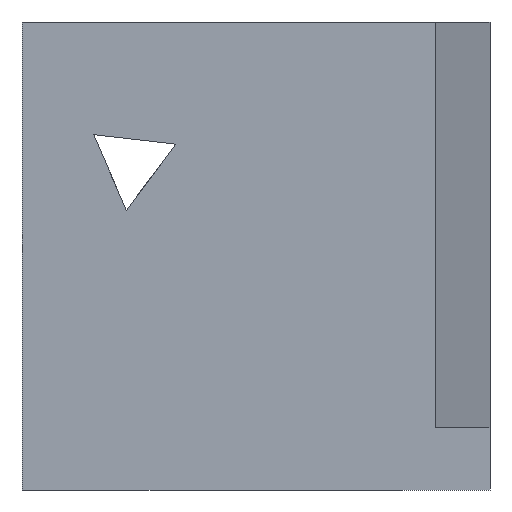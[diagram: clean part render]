
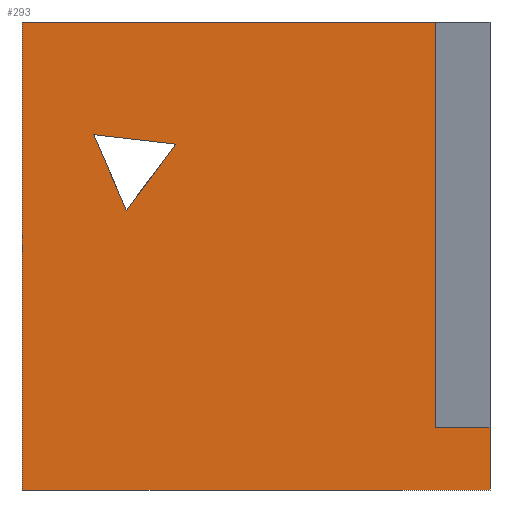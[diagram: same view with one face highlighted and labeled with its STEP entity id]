
A CAD part, left-side view. The second image highlights one B-rep face of the part: STEP entity #293.
In plain terms, the highlighted planar face has unit normal (-1, 0, 0).
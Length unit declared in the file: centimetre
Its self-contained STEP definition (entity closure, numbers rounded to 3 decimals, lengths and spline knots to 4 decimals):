
#23 = ORIENTED_EDGE ( 'NONE', *, *, #812, .F. ) ;
#25 = LINE ( 'NONE', #825, #1065 ) ;
#47 = DIRECTION ( 'NONE',  ( 0., -0.397, -0.918 ) ) ;
#94 = DIRECTION ( 'NONE',  ( 1., 0., 0. ) ) ;
#104 = CARTESIAN_POINT ( 'NONE',  ( 0., 115.4459, 1000. ) ) ;
#106 = PLANE ( 'NONE',  #1262 ) ;
#110 = LINE ( 'NONE', #381, #1040 ) ;
#130 = DIRECTION ( 'NONE',  ( 0., -1., 0. ) ) ;
#133 = EDGE_CURVE ( 'NONE', #341, #727, #710, .T. ) ;
#148 = CARTESIAN_POINT ( 'NONE',  ( 0., 0., 132.502 ) ) ;
#154 = VERTEX_POINT ( 'NONE', #327 ) ;
#175 = EDGE_CURVE ( 'NONE', #475, #1126, #608, .T. ) ;
#189 = CARTESIAN_POINT ( 'NONE',  ( 0., 776.8995, 597.3824 ) ) ;
#194 = CARTESIAN_POINT ( 'NONE',  ( 0., 1000., 1000. ) ) ;
#220 = VECTOR ( 'NONE', #1160, 100. ) ;
#242 = VECTOR ( 'NONE', #519, 100. ) ;
#253 = ORIENTED_EDGE ( 'NONE', *, *, #175, .F. ) ;
#265 = VECTOR ( 'NONE', #47, 100. ) ;
#293 = ADVANCED_FACE ( 'NONE', ( #1002, #1215 ), #106, .F. ) ;
#297 = VECTOR ( 'NONE', #565, 100. ) ;
#303 = CARTESIAN_POINT ( 'NONE',  ( 0., 1000., 1000. ) ) ;
#320 = DIRECTION ( 'NONE',  ( 0., 0., -1. ) ) ;
#327 = CARTESIAN_POINT ( 'NONE',  ( 0., 0., 0. ) ) ;
#341 = VERTEX_POINT ( 'NONE', #455 ) ;
#358 = EDGE_LOOP ( 'NONE', ( #782, #709, #253, #1229, #784, #648 ) ) ;
#359 = CARTESIAN_POINT ( 'NONE',  ( 0., 846.9196, 759.39 ) ) ;
#381 = CARTESIAN_POINT ( 'NONE',  ( 0., 776.8995, 597.3824 ) ) ;
#395 = CARTESIAN_POINT ( 'NONE',  ( 0., 671.6069, 739.0254 ) ) ;
#410 = CARTESIAN_POINT ( 'NONE',  ( 0., 671.6069, 739.0254 ) ) ;
#415 = CARTESIAN_POINT ( 'NONE',  ( 0., 1000., 0. ) ) ;
#455 = CARTESIAN_POINT ( 'NONE',  ( 0., 115.4459, 132.502 ) ) ;
#459 = CARTESIAN_POINT ( 'NONE',  ( 0., 0., 1000. ) ) ;
#469 = ORIENTED_EDGE ( 'NONE', *, *, #848, .F. ) ;
#475 = VERTEX_POINT ( 'NONE', #194 ) ;
#480 = VERTEX_POINT ( 'NONE', #189 ) ;
#481 = VERTEX_POINT ( 'NONE', #395 ) ;
#512 = LINE ( 'NONE', #1230, #685 ) ;
#519 = DIRECTION ( 'NONE',  ( 0., 0.993, 0.115 ) ) ;
#537 = CARTESIAN_POINT ( 'NONE',  ( 0., 846.9196, 759.39 ) ) ;
#565 = DIRECTION ( 'NONE',  ( 0., -1., 0. ) ) ;
#574 = EDGE_CURVE ( 'NONE', #711, #154, #1299, .T. ) ;
#582 = VECTOR ( 'NONE', #1009, 100. ) ;
#608 = LINE ( 'NONE', #303, #582 ) ;
#648 = ORIENTED_EDGE ( 'NONE', *, *, #889, .F. ) ;
#656 = EDGE_CURVE ( 'NONE', #480, #481, #110, .T. ) ;
#685 = VECTOR ( 'NONE', #320, 100. ) ;
#706 = DIRECTION ( 'NONE',  ( 0., -0.597, 0.803 ) ) ;
#709 = ORIENTED_EDGE ( 'NONE', *, *, #1293, .T. ) ;
#710 = LINE ( 'NONE', #715, #1256 ) ;
#711 = VERTEX_POINT ( 'NONE', #415 ) ;
#715 = CARTESIAN_POINT ( 'NONE',  ( 0., 0., 132.502 ) ) ;
#726 = LINE ( 'NONE', #410, #242 ) ;
#727 = VERTEX_POINT ( 'NONE', #148 ) ;
#768 = CARTESIAN_POINT ( 'NONE',  ( 0., 1000., 0. ) ) ;
#774 = EDGE_CURVE ( 'NONE', #475, #711, #512, .T. ) ;
#782 = ORIENTED_EDGE ( 'NONE', *, *, #133, .F. ) ;
#784 = ORIENTED_EDGE ( 'NONE', *, *, #574, .T. ) ;
#794 = CARTESIAN_POINT ( 'NONE',  ( 0., 1000., 1000. ) ) ;
#812 = EDGE_CURVE ( 'NONE', #481, #937, #726, .T. ) ;
#825 = CARTESIAN_POINT ( 'NONE',  ( 0., 115.4459, 132.502 ) ) ;
#848 = EDGE_CURVE ( 'NONE', #937, #480, #1222, .T. ) ;
#889 = EDGE_CURVE ( 'NONE', #727, #154, #946, .T. ) ;
#937 = VERTEX_POINT ( 'NONE', #359 ) ;
#939 = ORIENTED_EDGE ( 'NONE', *, *, #656, .F. ) ;
#946 = LINE ( 'NONE', #459, #220 ) ;
#1002 = FACE_BOUND ( 'NONE', #1242, .T. ) ;
#1009 = DIRECTION ( 'NONE',  ( 0., -1., 0. ) ) ;
#1024 = DIRECTION ( 'NONE',  ( 0., 0., 1. ) ) ;
#1040 = VECTOR ( 'NONE', #706, 100. ) ;
#1065 = VECTOR ( 'NONE', #1024, 100. ) ;
#1126 = VERTEX_POINT ( 'NONE', #104 ) ;
#1160 = DIRECTION ( 'NONE',  ( 0., 0., -1. ) ) ;
#1191 = DIRECTION ( 'NONE',  ( 0., 0., -1. ) ) ;
#1215 = FACE_OUTER_BOUND ( 'NONE', #358, .T. ) ;
#1222 = LINE ( 'NONE', #537, #265 ) ;
#1229 = ORIENTED_EDGE ( 'NONE', *, *, #774, .T. ) ;
#1230 = CARTESIAN_POINT ( 'NONE',  ( 0., 1000., 1000. ) ) ;
#1242 = EDGE_LOOP ( 'NONE', ( #469, #23, #939 ) ) ;
#1256 = VECTOR ( 'NONE', #130, 100. ) ;
#1262 = AXIS2_PLACEMENT_3D ( 'NONE', #794, #94, #1191 ) ;
#1293 = EDGE_CURVE ( 'NONE', #341, #1126, #25, .T. ) ;
#1299 = LINE ( 'NONE', #768, #297 ) ;
